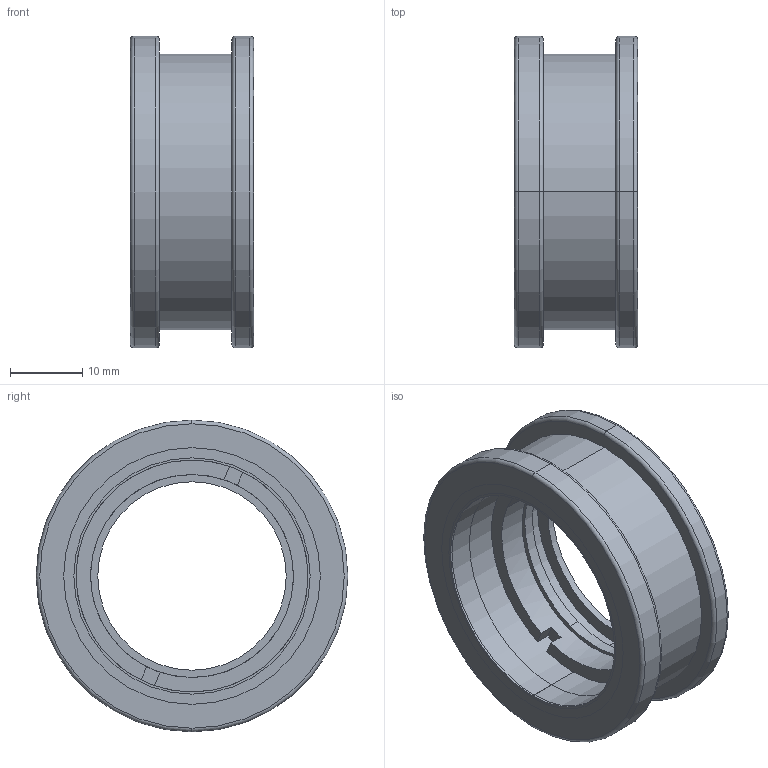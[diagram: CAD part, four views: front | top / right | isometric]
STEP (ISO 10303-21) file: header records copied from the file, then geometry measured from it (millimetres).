
FILE_DESCRIPTION (( 'STEP AP203' ), '1' );
FILE_NAME ('7MMPH130Æ«¹â¾µÍ².STEP', '2019-12-05T06:04:21', ( '' ), ( '' ), 'SwSTEP 2.0', 'SolidWorks 2018', '' );
FILE_SCHEMA (( 'CONFIG_CONTROL_DESIGN' ));
Length unit declared in the file: millimetre
Products named in the file (1): 7MMPH130ぇ嫖噩芠
Bounding box: 17 x 43 x 43 mm (x, y, z)
Volume: 9879 mm3; surface area: 9511.9 mm2
Topology: 4 solids, 4 shells, 65 faces, 140 edges, 88 vertices
Faces by surface type: cylinder 28, plane 21, torus 8, cone 8
Entity records: 1881 total; most frequent: DIRECTION 360, CARTESIAN_POINT 294, ORIENTED_EDGE 280, AXIS2_PLACEMENT_3D 154, EDGE_CURVE 140, VERTEX_POINT 88, CIRCLE 88, EDGE_LOOP 78
